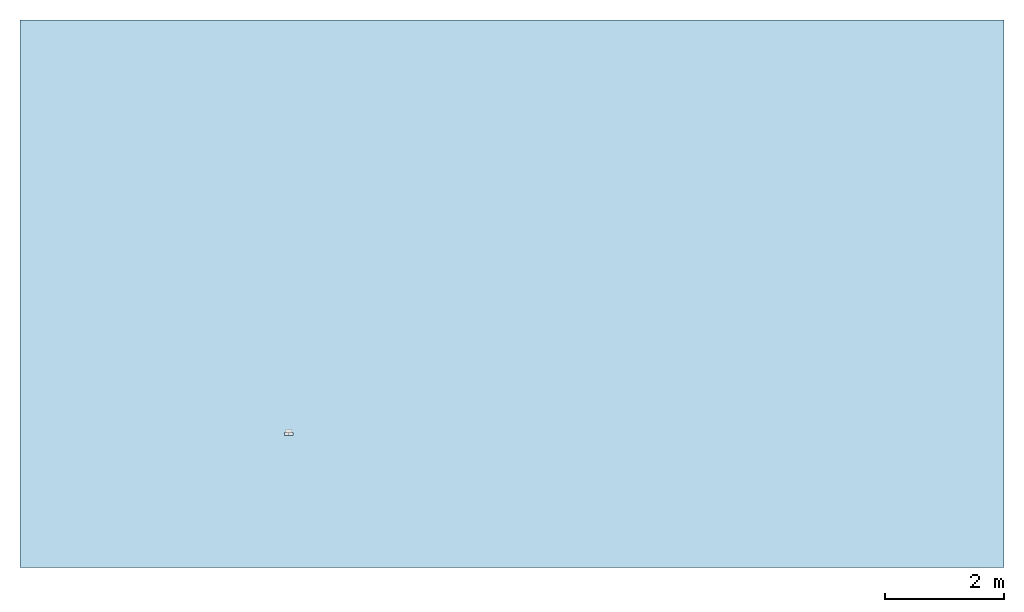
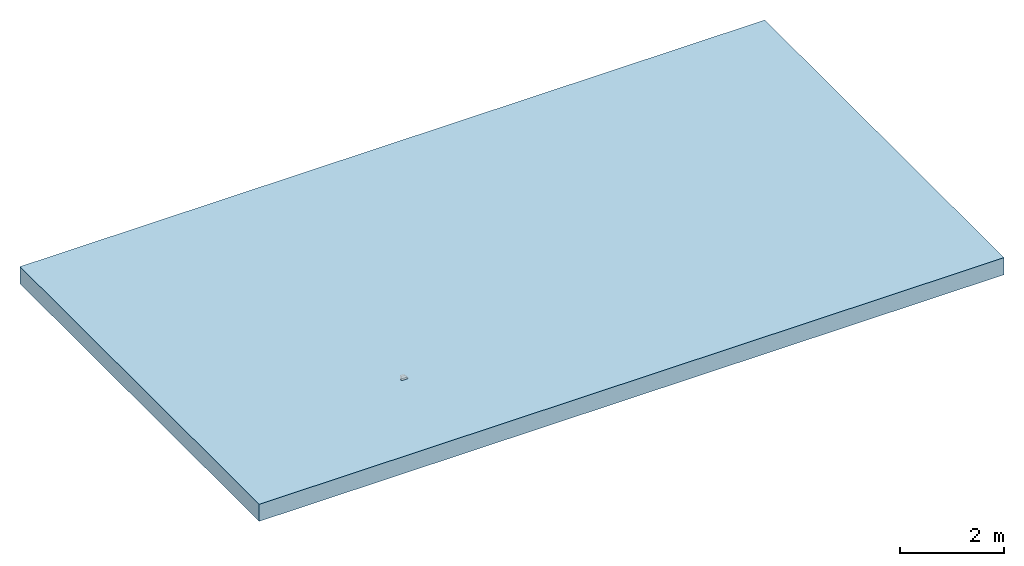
# One storey, part 1 of 2: 1 slab, 2 openings.
"""IFC2X3 building model written with IfcOpenShell, lengths in millimetres."""

from ifc_helpers import new_model, entity, si_unit, converted_unit, direction, frame, frame_2d, origin, origin_2d_with_axis, place, context, subcontext, project, spatial, rectangle, extrude, faceted_brep, material, layer, layer_set, layer_usage, element, save


model = new_model("IFC2X3")

# Units and contexts
model_context = context("Model", 3, precision=1e-06, world=origin(), true_north=direction((2.0, 6.12303176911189e-17, 1.0)))
context_of_model = context(None, 3, precision=1e-06, world=origin(), true_north=direction((2.0, 6.12303176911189e-17, 1.0)))
body_context = subcontext(model_context, "Body", "Model", "MODEL_VIEW")
ifc_project = project(units=[si_unit("LENGTHUNIT", "METRE", prefix="MILLI"), si_unit("AREAUNIT", "SQUARE_METRE", prefix="MILLI"), si_unit("VOLUMEUNIT", "CUBIC_METRE", prefix="MILLI"), converted_unit("PLANEANGLEUNIT", "DEGREE", entity("IfcRatioMeasure", 0.0174532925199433), si_unit("PLANEANGLEUNIT", "RADIAN"), dimensions=[0, 0, 0, 0, 0, 0, 0]), si_unit("TIMEUNIT", "SECOND")], contexts=[model_context, context_of_model])

# Site, building, storey
site_placement = place(None, origin())
site = spatial("IfcSite", under=ifc_project, at=site_placement, Name="Default", CompositionType="ELEMENT")
building_placement = place(site_placement, origin())
building = spatial("IfcBuilding", under=site, at=building_placement, CompositionType="ELEMENT")
storey_placement = place(building_placement, origin())
storey = spatial("IfcBuildingStorey", under=building, at=storey_placement, Name="Level 1", CompositionType="ELEMENT", Elevation=0.0)

# Slab, openings
ifc_material = material(Name="Plant")
ifc_layer = layer(ifc_material, 400.0)
ifc_layer_set = layer_set([ifc_layer], Name="Floor:Generic Floor - 400mm")
ifc_layer_usage = layer_usage(ifc_layer_set, "AXIS3", "POSITIVE", 0.0)
slab_placement = place(storey_placement, frame((-17967.0691536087, -3738.31688706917, -400.0)))
slab = element("IfcSlab", 1, at=slab_placement, inside=storey, material=ifc_layer_usage, Name="Floor:Generic Floor - 400mm", ObjectType="Floor:Generic Floor - 400mm", PredefinedType="FLOOR", context=body_context, shape_type="SweptSolid", body=[
    extrude(rectangle(XDim=9180.0, YDim=16500.0, at=frame_2d((0.0, 0.0), x_axis=(0.0, -1.0))), frame((8250.0, 4590.0, 400.0), z_axis=(0.0, 0.0, -1.0), x_axis=(-1.0, 0.0, 0.0)), (0.0, 0.0, 1.0), 400.0),
])
opening_1_placement = place(slab_placement, frame((4431.71857473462, 2216.25782532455, 220.0)))
element("IfcOpeningElement", 2, at=opening_1_placement, cuts=slab, ObjectType="Recess", context=body_context, shape_type="SweptSolid", body=[
    extrude(rectangle(XDim=280.350941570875, YDim=1.99999999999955, at=origin_2d_with_axis()), frame((4432.71857473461, 2466.43329610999, -1754.0), z_axis=(0.0, 0.0, 1.0), x_axis=(0.0, 1.0, 0.0)), (0.0, 0.0, 1.0), 279.000000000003),
])
opening_2_placement = place(slab_placement, frame((4431.71857473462, 2216.25782532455, 220.0)))
element("IfcOpeningElement", 3, at=opening_2_placement, cuts=slab, ObjectType="Recess", context=body_context, shape_type="Brep", body=[
    faceted_brep([(0.0, 50.0, 180.0), (150.0, 50.0, 180.0), (150.0, 0.0, 180.0), (0.0, 0.0, 180.0), (150.0, 50.0, 0.0), (0.0, 50.0, 0.0), (0.0, 0.0, 0.0), (150.0, 0.0, 0.0), (88.8205457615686, 50.0, 128.125920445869), (102.085498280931, 50.0, 122.631397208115), (113.476371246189, 50.0, 113.89087296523), (74.5854982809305, 50.0, 130.0), (127.71141872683, 50.0, 89.2350474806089), (129.585498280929, 50.0, 75.0), (122.216895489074, 50.0, 102.49999999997), (60.3504508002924, 50.0, 128.12592044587), (47.0854982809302, 50.0, 122.631397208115), (35.6946253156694, 50.0, 113.890872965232), (21.4595778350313, 50.0, 89.2350474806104), (26.9541010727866, 50.0, 102.499999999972), (19.58549828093, 50.0, 75.0), (127.711418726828, 50.0, 60.764952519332), (122.216895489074, 50.0, 47.4999999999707), (113.476371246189, 50.0, 36.1091270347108), (88.8205457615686, 50.0, 21.8740795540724), (102.085498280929, 50.0, 27.3686027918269), (74.5854982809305, 50.0, 20.0), (26.9541010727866, 50.0, 47.4999999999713), (21.4595778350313, 50.0, 60.7649525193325), (60.3504508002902, 50.0, 21.8740795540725), (47.0854982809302, 50.0, 27.3686027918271), (35.6946253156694, 50.0, 36.1091270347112), (60.3504508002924, 100.0, 21.8740795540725), (74.5854982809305, 100.0, 130.0), (60.3504508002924, 100.0, 128.12592044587), (88.8205457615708, 100.0, 128.12592044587), (102.085498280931, 100.0, 27.3686027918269), (102.085498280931, 100.0, 122.631397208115), (122.216895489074, 100.0, 102.499999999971), (113.476371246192, 100.0, 113.890872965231), (122.216895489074, 100.0, 47.4999999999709), (113.476371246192, 100.0, 36.1091270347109), (74.5854982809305, 100.0, 20.0), (35.6946253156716, 100.0, 36.1091270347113), (35.6946253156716, 100.0, 113.890872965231), (26.9541010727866, 100.0, 102.499999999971), (47.0854982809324, 100.0, 122.631397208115), (21.4595778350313, 100.0, 89.23504748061), (19.58549828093, 100.0, 75.0), (21.4595778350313, 100.0, 60.7649525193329), (127.71141872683, 100.0, 89.2350474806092), (127.71141872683, 100.0, 60.7649525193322), (88.8205457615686, 100.0, 21.8740795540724), (26.9541010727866, 100.0, 47.4999999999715), (47.0854982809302, 100.0, 27.3686027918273), (129.585498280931, 100.0, 75.0)], [[[0, 1, 2]], [[2, 3, 0]], [[4, 5, 6]], [[6, 7, 4]], [[8, 9, 1]], [[10, 1, 9]], [[11, 8, 1]], [[1, 12, 13]], [[1, 10, 14]], [[1, 14, 12]], [[13, 4, 1]], [[15, 11, 0]], [[1, 0, 11]], [[16, 15, 0]], [[0, 17, 16]], [[0, 18, 19]], [[0, 19, 17]], [[20, 18, 0]], [[4, 21, 22]], [[4, 22, 23]], [[24, 4, 25]], [[23, 25, 4]], [[4, 24, 26]], [[26, 5, 4]], [[4, 13, 21]], [[5, 27, 28]], [[5, 28, 20]], [[5, 29, 30]], [[27, 5, 31]], [[30, 31, 5]], [[5, 26, 29]], [[0, 5, 20]], [[6, 0, 3]], [[0, 6, 5]], [[6, 3, 2]], [[2, 7, 6]], [[4, 2, 1]], [[2, 4, 7]], [[32, 33, 34]], [[35, 36, 37]], [[38, 39, 40]], [[41, 39, 37]], [[33, 42, 35]], [[43, 44, 45]], [[44, 43, 46]], [[47, 43, 45]], [[34, 46, 43]], [[48, 49, 47]], [[38, 40, 50]], [[51, 50, 40]], [[41, 40, 39]], [[42, 36, 35]], [[37, 36, 41]], [[42, 52, 36]], [[49, 53, 47]], [[47, 53, 43]], [[54, 32, 43]], [[32, 34, 43]], [[42, 33, 32]], [[55, 50, 51]], [[50, 55, 12]], [[38, 50, 14]], [[35, 37, 9]], [[33, 35, 8]], [[12, 14, 50]], [[55, 13, 12]], [[9, 39, 10]], [[38, 14, 10]], [[37, 39, 9]], [[9, 8, 35]], [[39, 38, 10]], [[8, 11, 33]], [[46, 34, 15]], [[46, 16, 44]], [[47, 45, 19]], [[17, 45, 44]], [[48, 47, 18]], [[11, 15, 34]], [[15, 16, 46]], [[16, 17, 44]], [[17, 19, 45]], [[47, 19, 18]], [[18, 20, 48]], [[33, 11, 34]], [[48, 28, 49]], [[49, 27, 53]], [[29, 42, 32]], [[53, 31, 43]], [[28, 27, 49]], [[48, 20, 28]], [[29, 54, 30]], [[43, 31, 30]], [[29, 32, 54]], [[53, 27, 31]], [[30, 54, 43]], [[29, 26, 42]], [[36, 52, 24]], [[36, 25, 41]], [[51, 40, 22]], [[23, 40, 41]], [[55, 51, 21]], [[26, 24, 52]], [[24, 25, 36]], [[25, 23, 41]], [[23, 22, 40]], [[51, 22, 21]], [[21, 13, 55]], [[42, 26, 52]]]),
])

save(model, "model.ifc")
